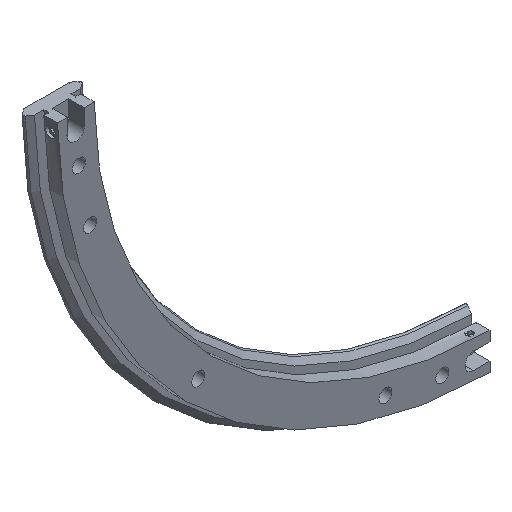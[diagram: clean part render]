
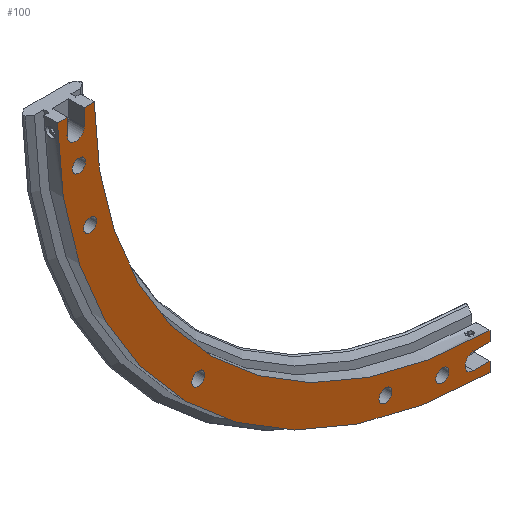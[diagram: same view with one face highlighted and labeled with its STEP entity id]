
A CAD part, isometric view. The second image highlights one B-rep face of the part: STEP entity #100.
In plain terms, the highlighted planar face has unit normal (0, -1, 0).
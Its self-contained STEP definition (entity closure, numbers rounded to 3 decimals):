
#100 = ADVANCED_FACE( '', ( #209, #210, #211, #212, #213, #214 ), #215, .T. );
#209 = FACE_BOUND( '', #398, .T. );
#210 = FACE_BOUND( '', #399, .T. );
#211 = FACE_BOUND( '', #400, .T. );
#212 = FACE_BOUND( '', #401, .T. );
#213 = FACE_BOUND( '', #402, .T. );
#214 = FACE_OUTER_BOUND( '', #403, .T. );
#215 = PLANE( '', #404 );
#398 = EDGE_LOOP( '', ( #726 ) );
#399 = EDGE_LOOP( '', ( #727 ) );
#400 = EDGE_LOOP( '', ( #728 ) );
#401 = EDGE_LOOP( '', ( #729 ) );
#402 = EDGE_LOOP( '', ( #730 ) );
#403 = EDGE_LOOP( '', ( #731, #732, #733, #734, #735, #736, #737, #738, #739, #740, #741, #742 ) );
#404 = AXIS2_PLACEMENT_3D( '', #743, #744, #745 );
#726 = ORIENTED_EDGE( '', *, *, #1196, .F. );
#727 = ORIENTED_EDGE( '', *, *, #1197, .F. );
#728 = ORIENTED_EDGE( '', *, *, #1198, .F. );
#729 = ORIENTED_EDGE( '', *, *, #1172, .F. );
#730 = ORIENTED_EDGE( '', *, *, #1176, .F. );
#731 = ORIENTED_EDGE( '', *, *, #1157, .T. );
#732 = ORIENTED_EDGE( '', *, *, #1162, .T. );
#733 = ORIENTED_EDGE( '', *, *, #1180, .T. );
#734 = ORIENTED_EDGE( '', *, *, #1199, .T. );
#735 = ORIENTED_EDGE( '', *, *, #1112, .T. );
#736 = ORIENTED_EDGE( '', *, *, #1171, .T. );
#737 = ORIENTED_EDGE( '', *, *, #1169, .T. );
#738 = ORIENTED_EDGE( '', *, *, #1167, .T. );
#739 = ORIENTED_EDGE( '', *, *, #1128, .T. );
#740 = ORIENTED_EDGE( '', *, *, #1200, .F. );
#741 = ORIENTED_EDGE( '', *, *, #1181, .T. );
#742 = ORIENTED_EDGE( '', *, *, #1160, .T. );
#743 = CARTESIAN_POINT( '', ( -167.8, 0., 0. ) );
#744 = DIRECTION( '', ( 0., -1., 0. ) );
#745 = DIRECTION( '', ( 0., 0., -1. ) );
#1112 = EDGE_CURVE( '', #1289, #1287, #1290, .T. );
#1128 = EDGE_CURVE( '', #1321, #1319, #1322, .T. );
#1157 = EDGE_CURVE( '', #1371, #1372, #1373, .T. );
#1160 = EDGE_CURVE( '', #1376, #1371, #1377, .T. );
#1162 = EDGE_CURVE( '', #1372, #1379, #1380, .T. );
#1167 = EDGE_CURVE( '', #1387, #1321, #1388, .T. );
#1169 = EDGE_CURVE( '', #1390, #1387, #1391, .T. );
#1171 = EDGE_CURVE( '', #1287, #1390, #1393, .T. );
#1172 = EDGE_CURVE( '', #1394, #1394, #1395, .T. );
#1176 = EDGE_CURVE( '', #1402, #1402, #1403, .T. );
#1180 = EDGE_CURVE( '', #1379, #1410, #1411, .T. );
#1181 = EDGE_CURVE( '', #1412, #1376, #1413, .T. );
#1196 = EDGE_CURVE( '', #1440, #1440, #1441, .T. );
#1197 = EDGE_CURVE( '', #1442, #1442, #1443, .T. );
#1198 = EDGE_CURVE( '', #1444, #1444, #1445, .T. );
#1199 = EDGE_CURVE( '', #1410, #1289, #1446, .T. );
#1200 = EDGE_CURVE( '', #1412, #1319, #1447, .T. );
#1287 = VERTEX_POINT( '', #1586 );
#1289 = VERTEX_POINT( '', #1589 );
#1290 = LINE( '', #1590, #1591 );
#1319 = VERTEX_POINT( '', #1658 );
#1321 = VERTEX_POINT( '', #1661 );
#1322 = LINE( '', #1662, #1663 );
#1371 = VERTEX_POINT( '', #1748 );
#1372 = VERTEX_POINT( '', #1749 );
#1373 = CIRCLE( '', #1750, 3.5 );
#1376 = VERTEX_POINT( '', #1755 );
#1377 = LINE( '', #1756, #1757 );
#1379 = VERTEX_POINT( '', #1760 );
#1380 = LINE( '', #1761, #1762 );
#1387 = VERTEX_POINT( '', #1772 );
#1388 = LINE( '', #1773, #1774 );
#1390 = VERTEX_POINT( '', #1777 );
#1391 = CIRCLE( '', #1778, 3.5 );
#1393 = LINE( '', #1781, #1782 );
#1394 = VERTEX_POINT( '', #1783 );
#1395 = CIRCLE( '', #1784, 2.75 );
#1402 = VERTEX_POINT( '', #1791 );
#1403 = CIRCLE( '', #1792, 2.75 );
#1410 = VERTEX_POINT( '', #1799 );
#1411 = LINE( '', #1800, #1801 );
#1412 = VERTEX_POINT( '', #1802 );
#1413 = LINE( '', #1803, #1804 );
#1440 = VERTEX_POINT( '', #1867 );
#1441 = CIRCLE( '', #1868, 2.75 );
#1442 = VERTEX_POINT( '', #1869 );
#1443 = CIRCLE( '', #1870, 2.75 );
#1444 = VERTEX_POINT( '', #1871 );
#1445 = CIRCLE( '', #1872, 2.75 );
#1446 = CIRCLE( '', #1873, 183.2 );
#1447 = CIRCLE( '', #1874, 167.8 );
#1586 = CARTESIAN_POINT( '', ( -1.5, 0., -179. ) );
#1589 = CARTESIAN_POINT( '', ( -1.5, 0., -183.194 ) );
#1590 = CARTESIAN_POINT( '', ( -1.5, 0., -188.37 ) );
#1591 = VECTOR( '', #2192, 1000. );
#1658 = CARTESIAN_POINT( '', ( -1.5, 0., -167.793 ) );
#1661 = CARTESIAN_POINT( '', ( -1.5, 0., -172. ) );
#1662 = CARTESIAN_POINT( '', ( -1.5, 0., -188.37 ) );
#1663 = VECTOR( '', #2202, 1000. );
#1748 = CARTESIAN_POINT( '', ( -172., 0., -8.5 ) );
#1749 = CARTESIAN_POINT( '', ( -179., 0., -8.5 ) );
#1750 = AXIS2_PLACEMENT_3D( '', #2245, #2246, #2247 );
#1755 = CARTESIAN_POINT( '', ( -172., 0., -1.5 ) );
#1756 = CARTESIAN_POINT( '', ( -172., 0., 0. ) );
#1757 = VECTOR( '', #2250, 1000. );
#1760 = CARTESIAN_POINT( '', ( -179., 0., -1.5 ) );
#1761 = CARTESIAN_POINT( '', ( -179., 0., -8.5 ) );
#1762 = VECTOR( '', #2252, 1000. );
#1772 = CARTESIAN_POINT( '', ( -8.5, 0., -172. ) );
#1773 = CARTESIAN_POINT( '', ( -8.5, 0., -172. ) );
#1774 = VECTOR( '', #2259, 1000. );
#1777 = CARTESIAN_POINT( '', ( -8.5, 0., -179. ) );
#1778 = AXIS2_PLACEMENT_3D( '', #2261, #2262, #2263 );
#1781 = CARTESIAN_POINT( '', ( 0., 0., -179. ) );
#1782 = VECTOR( '', #2265, 1000. );
#1783 = CARTESIAN_POINT( '', ( -169.52, 0., -48.173 ) );
#1784 = AXIS2_PLACEMENT_3D( '', #2266, #2267, #2268 );
#1791 = CARTESIAN_POINT( '', ( -45.423, 0., -172.27 ) );
#1792 = AXIS2_PLACEMENT_3D( '', #2278, #2279, #2280 );
#1799 = CARTESIAN_POINT( '', ( -183.194, 0., -1.5 ) );
#1800 = CARTESIAN_POINT( '', ( -1.5, 0., -1.5 ) );
#1801 = VECTOR( '', #2290, 1000. );
#1802 = CARTESIAN_POINT( '', ( -167.793, 0., -1.5 ) );
#1803 = CARTESIAN_POINT( '', ( -1.5, 0., -1.5 ) );
#1804 = VECTOR( '', #2291, 1000. );
#1867 = CARTESIAN_POINT( '', ( -174.178, 0., -24.251 ) );
#1868 = AXIS2_PLACEMENT_3D( '', #2301, #2302, #2303 );
#1869 = CARTESIAN_POINT( '', ( -21.501, 0., -176.928 ) );
#1870 = AXIS2_PLACEMENT_3D( '', #2304, #2305, #2306 );
#1871 = CARTESIAN_POINT( '', ( -124.097, 0., -126.847 ) );
#1872 = AXIS2_PLACEMENT_3D( '', #2307, #2308, #2309 );
#1873 = AXIS2_PLACEMENT_3D( '', #2310, #2311, #2312 );
#1874 = AXIS2_PLACEMENT_3D( '', #2313, #2314, #2315 );
#2192 = DIRECTION( '', ( 0., 0., 1. ) );
#2202 = DIRECTION( '', ( 0., 0., 1. ) );
#2245 = CARTESIAN_POINT( '', ( -175.5, 0., -8.5 ) );
#2246 = DIRECTION( '', ( 0., 1., 0. ) );
#2247 = DIRECTION( '', ( 1., 0., 0. ) );
#2250 = DIRECTION( '', ( 0., 0., -1. ) );
#2252 = DIRECTION( '', ( 0., 0., 1. ) );
#2259 = DIRECTION( '', ( 1., 0., 0. ) );
#2261 = CARTESIAN_POINT( '', ( -8.5, 0., -175.5 ) );
#2262 = DIRECTION( '', ( 0., 1., 0. ) );
#2263 = DIRECTION( '', ( 1., 0., 0. ) );
#2265 = DIRECTION( '', ( -1., 0., 0. ) );
#2266 = CARTESIAN_POINT( '', ( -169.52, 0., -45.423 ) );
#2267 = DIRECTION( '', ( 0., -1., 0. ) );
#2268 = DIRECTION( '', ( 0., 0., -1. ) );
#2278 = CARTESIAN_POINT( '', ( -45.423, 0., -169.52 ) );
#2279 = DIRECTION( '', ( 0., -1., 0. ) );
#2280 = DIRECTION( '', ( 0., 0., -1. ) );
#2290 = DIRECTION( '', ( -1., 0., 0. ) );
#2291 = DIRECTION( '', ( -1., 0., 0. ) );
#2301 = CARTESIAN_POINT( '', ( -174.178, 0., -21.501 ) );
#2302 = DIRECTION( '', ( 0., -1., 0. ) );
#2303 = DIRECTION( '', ( 0., 0., -1. ) );
#2304 = CARTESIAN_POINT( '', ( -21.501, 0., -174.178 ) );
#2305 = DIRECTION( '', ( 0., -1., 0. ) );
#2306 = DIRECTION( '', ( 0., 0., -1. ) );
#2307 = CARTESIAN_POINT( '', ( -124.097, 0., -124.097 ) );
#2308 = DIRECTION( '', ( 0., -1., 0. ) );
#2309 = DIRECTION( '', ( 0., 0., -1. ) );
#2310 = CARTESIAN_POINT( '', ( 0., 0., 0. ) );
#2311 = DIRECTION( '', ( 0., -1., 0. ) );
#2312 = DIRECTION( '', ( 0., 0., -1. ) );
#2313 = CARTESIAN_POINT( '', ( 0., 0., 0. ) );
#2314 = DIRECTION( '', ( 0., -1., 0. ) );
#2315 = DIRECTION( '', ( 0., 0., -1. ) );
